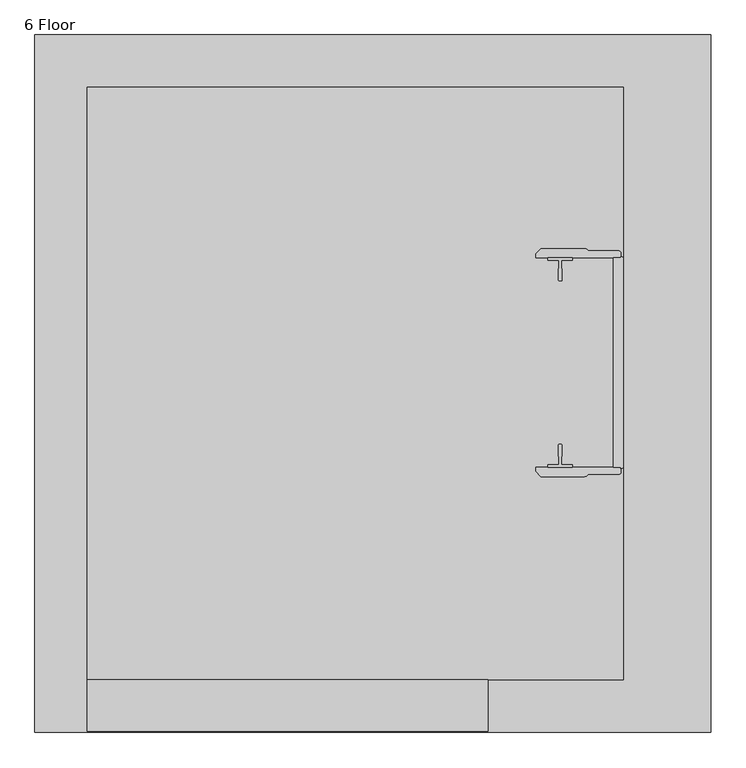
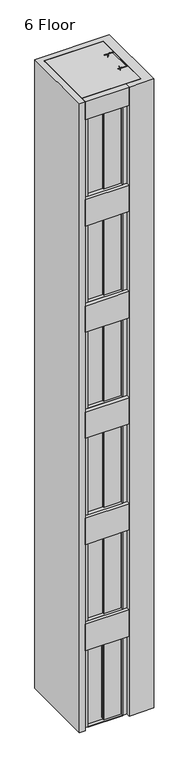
"""IFC4 building model written with IfcOpenShell, lengths in millimetres: proxy geometry, Gartec-5000-MRL-Traction-Cabin-Lift : 6 Floor."""

from ifc_helpers import new_model, si_unit, point, frame, frame_2d, origin, origin_with_axes, place, context, project, spatial, polyline, circle_curve, trimmed, segment, composite_curve, outline, extrude, source, transform, mapped, element, save


def proxy_6_floor_30cc6ed3(model_context):
    return source(origin(), model_context, "Body", "SweptSolid", [
        extrude(outline(polyline([(-770.0, -1848.2230509), (-770.0, -1700.0), (380.0, -1700.0), (380.0, -1848.2230509), (-770.0, -1848.2230509)])), frame((0.0, 0.0, 16800.0), z_axis=(0.0, 0.0, 1.0), x_axis=(1.0, 0.0, 0.0)), (0.0, 0.0, 1.0), 500.0),
        extrude(outline(polyline([(-638.0000218, -1751.99999), (-638.0000218, -1658.9999912), (-655.0000218, -1658.9999912), (-655.0000218, -1619.4999877), (751.999977, -1619.4999877), (751.999977, -1694.4999913), (261.9999901, -1694.4999913), (261.9999901, -1751.99999), (-638.0000218, -1751.99999)])), frame((0.0, 0.0, 14586.0716451), z_axis=(0.0, 0.0, 1.0), x_axis=(1.0, 0.0, 0.0)), (0.0, 0.0, 1.0), 13.9283549),
        extrude(outline(polyline([(-638.0000218, -1751.99999), (-757.9999968, -1751.99999), (-757.9999968, -1692.9999914), (-743.0571123, -1694.3073274), (-695.1284541, -1629.4619355), (-696.000023, -1619.4999877), (-655.0000218, -1619.4999877), (751.999977, -1619.4999877), (751.999977, -1694.4999913), (261.9999901, -1694.4999913), (279.9314813, -1696.0687947), (279.8007683, -1697.5630868), (263.4999708, -1696.1369541), (263.4999708, -1750.4999907), (380.4999546, -1750.4999907), (380.4999546, -1697.1369541), (364.1992167, -1698.5630868), (364.0685038, -1697.0687946), (381.9999651, -1695.4999914), (381.9999651, -1751.99999), (261.9999901, -1751.99999), (-638.0000218, -1751.99999)])), frame((0.0, 0.0, 16800.0), z_axis=(0.0, 0.0, 1.0), x_axis=(1.0, 0.0, 0.0)), (0.0, 0.0, 1.0), 120.0121898),
        extrude(outline(polyline([(-638.0000218, -1658.9999912), (-638.0000218, -1751.99999), (-757.9999968, -1751.99999), (-757.9999968, -1692.9999914), (-743.0571123, -1694.3073274), (-743.1878253, -1695.8016196), (-756.4999863, -1694.6369541), (-756.4999863, -1750.4999907), (-639.5000025, -1750.4999907), (-639.5000025, -1660.4999912), (-656.5000218, -1660.4999912), (-656.5000218, -1620.9999908), (-694.363041, -1620.9999908), (-693.6341656, -1629.3312077), (-695.1284541, -1629.4619355), (-696.000023, -1619.4999877), (-655.0000218, -1619.4999877), (-655.0000218, -1658.9999912), (-638.0000218, -1658.9999912)])), frame((0.0, 0.0, 14600.0), z_axis=(0.0, 0.0, 1.0), x_axis=(1.0, 0.0, 0.0)), (0.0, 0.0, 1.0), 2200.0),
        extrude(outline(polyline([(263.4999708, -1696.1369541), (263.4999708, -1750.4999907), (380.4999546, -1750.4999907), (380.4999546, -1697.1369541), (364.1992167, -1698.5630868), (364.0685038, -1697.0687946), (381.9999651, -1695.4999914), (381.9999651, -1751.99999), (261.9999901, -1751.99999), (261.9999901, -1694.4999913), (279.9314813, -1696.0687947), (279.8007683, -1697.5630868), (263.4999708, -1696.1369541)])), frame((0.0, 0.0, 14600.0), z_axis=(0.0, 0.0, 1.0), x_axis=(1.0, 0.0, 0.0)), (0.0, 0.0, 1.0), 2200.0),
        extrude(outline(polyline([(-653.0000218, -1655.9999912), (-653.0000218, -1627.4999891), (-645.0000151, -1627.4999891), (-645.0000151, -1628.4999911), (-652.0000049, -1628.4999911), (-652.0000049, -1654.9999929), (-183.0000155, -1654.9999929), (-183.0000155, -1655.9999912), (-653.0000218, -1655.9999912)])), frame((0.0, 0.0, 14600.0), z_axis=(0.0, 0.0, 1.0), x_axis=(1.0, 0.0, 0.0)), (0.0, 0.0, 1.0), 2200.0),
        extrude(outline(polyline([(-194.5000095, -1688.4999913), (283.4999961, -1688.4999913), (283.4999961, -1689.4999914), (-195.5000095, -1689.4999914), (-195.5000095, -1660.9999902), (-182.5000166, -1660.9999902), (-182.5000166, -1661.9999922), (-194.5000095, -1661.9999922), (-194.5000095, -1688.4999913)])), frame((0.0, 0.0, 14600.0), z_axis=(0.0, 0.0, 1.0), x_axis=(1.0, 0.0, 0.0)), (0.0, 0.0, 1.0), 2200.0),
        extrude(outline(polyline([(-770.0, -1848.2230509), (-770.0, -1700.0), (380.0, -1700.0), (380.0, -1848.2230509), (-770.0, -1848.2230509)])), frame((0.0, 0.0, 13880.0), z_axis=(0.0, 0.0, 1.0), x_axis=(1.0, 0.0, 0.0)), (0.0, 0.0, 1.0), 720.0),
        extrude(outline(polyline([(-638.0000218, -1751.99999), (-638.0000218, -1658.9999912), (-655.0000218, -1658.9999912), (-655.0000218, -1619.4999877), (751.999977, -1619.4999877), (751.999977, -1694.4999913), (261.9999901, -1694.4999913), (261.9999901, -1751.99999), (-638.0000218, -1751.99999)])), frame((0.0, 0.0, 11666.0716451), z_axis=(0.0, 0.0, 1.0), x_axis=(1.0, 0.0, 0.0)), (0.0, 0.0, 1.0), 13.9283549),
        extrude(outline(polyline([(-638.0000218, -1751.99999), (-757.9999968, -1751.99999), (-757.9999968, -1692.9999914), (-743.0571123, -1694.3073274), (-695.1284541, -1629.4619355), (-696.000023, -1619.4999877), (-655.0000218, -1619.4999877), (751.999977, -1619.4999877), (751.999977, -1694.4999913), (261.9999901, -1694.4999913), (279.9314813, -1696.0687947), (279.8007683, -1697.5630868), (263.4999708, -1696.1369541), (263.4999708, -1750.4999907), (380.4999546, -1750.4999907), (380.4999546, -1697.1369541), (364.1992167, -1698.5630868), (364.0685038, -1697.0687946), (381.9999651, -1695.4999914), (381.9999651, -1751.99999), (261.9999901, -1751.99999), (-638.0000218, -1751.99999)])), frame((0.0, 0.0, 13880.0), z_axis=(0.0, 0.0, 1.0), x_axis=(1.0, 0.0, 0.0)), (0.0, 0.0, 1.0), 120.0121898),
        extrude(outline(polyline([(-638.0000218, -1658.9999912), (-638.0000218, -1751.99999), (-757.9999968, -1751.99999), (-757.9999968, -1692.9999914), (-743.0571123, -1694.3073274), (-743.1878253, -1695.8016196), (-756.4999863, -1694.6369541), (-756.4999863, -1750.4999907), (-639.5000025, -1750.4999907), (-639.5000025, -1660.4999912), (-656.5000218, -1660.4999912), (-656.5000218, -1620.9999908), (-694.363041, -1620.9999908), (-693.6341656, -1629.3312077), (-695.1284541, -1629.4619355), (-696.000023, -1619.4999877), (-655.0000218, -1619.4999877), (-655.0000218, -1658.9999912), (-638.0000218, -1658.9999912)])), frame((0.0, 0.0, 11680.0), z_axis=(0.0, 0.0, 1.0), x_axis=(1.0, 0.0, 0.0)), (0.0, 0.0, 1.0), 2200.0),
        extrude(outline(polyline([(263.4999708, -1696.1369541), (263.4999708, -1750.4999907), (380.4999546, -1750.4999907), (380.4999546, -1697.1369541), (364.1992167, -1698.5630868), (364.0685038, -1697.0687946), (381.9999651, -1695.4999914), (381.9999651, -1751.99999), (261.9999901, -1751.99999), (261.9999901, -1694.4999913), (279.9314813, -1696.0687947), (279.8007683, -1697.5630868), (263.4999708, -1696.1369541)])), frame((0.0, 0.0, 11680.0), z_axis=(0.0, 0.0, 1.0), x_axis=(1.0, 0.0, 0.0)), (0.0, 0.0, 1.0), 2200.0),
        extrude(outline(polyline([(-653.0000218, -1655.9999912), (-653.0000218, -1627.4999891), (-645.0000151, -1627.4999891), (-645.0000151, -1628.4999911), (-652.0000049, -1628.4999911), (-652.0000049, -1654.9999929), (-183.0000155, -1654.9999929), (-183.0000155, -1655.9999912), (-653.0000218, -1655.9999912)])), frame((0.0, 0.0, 11680.0), z_axis=(0.0, 0.0, 1.0), x_axis=(1.0, 0.0, 0.0)), (0.0, 0.0, 1.0), 2200.0),
        extrude(outline(polyline([(-194.5000095, -1688.4999913), (283.4999961, -1688.4999913), (283.4999961, -1689.4999914), (-195.5000095, -1689.4999914), (-195.5000095, -1660.9999902), (-182.5000166, -1660.9999902), (-182.5000166, -1661.9999922), (-194.5000095, -1661.9999922), (-194.5000095, -1688.4999913)])), frame((0.0, 0.0, 11680.0), z_axis=(0.0, 0.0, 1.0), x_axis=(1.0, 0.0, 0.0)), (0.0, 0.0, 1.0), 2200.0),
        extrude(outline(polyline([(-770.0, -1848.2230509), (-770.0, -1700.0), (380.0, -1700.0), (380.0, -1848.2230509), (-770.0, -1848.2230509)])), frame((0.0, 0.0, 10960.0), z_axis=(0.0, 0.0, 1.0), x_axis=(1.0, 0.0, 0.0)), (0.0, 0.0, 1.0), 720.0),
        extrude(outline(polyline([(-638.0000218, -1751.99999), (-638.0000218, -1658.9999912), (-655.0000218, -1658.9999912), (-655.0000218, -1619.4999877), (751.999977, -1619.4999877), (751.999977, -1694.4999913), (261.9999901, -1694.4999913), (261.9999901, -1751.99999), (-638.0000218, -1751.99999)])), frame((0.0, 0.0, 8746.0716451), z_axis=(0.0, 0.0, 1.0), x_axis=(1.0, 0.0, 0.0)), (0.0, 0.0, 1.0), 13.9283549),
        extrude(outline(polyline([(-638.0000218, -1751.99999), (-757.9999968, -1751.99999), (-757.9999968, -1692.9999914), (-743.0571123, -1694.3073274), (-695.1284541, -1629.4619355), (-696.000023, -1619.4999877), (-655.0000218, -1619.4999877), (751.999977, -1619.4999877), (751.999977, -1694.4999913), (261.9999901, -1694.4999913), (279.9314813, -1696.0687947), (279.8007683, -1697.5630868), (263.4999708, -1696.1369541), (263.4999708, -1750.4999907), (380.4999546, -1750.4999907), (380.4999546, -1697.1369541), (364.1992167, -1698.5630868), (364.0685038, -1697.0687946), (381.9999651, -1695.4999914), (381.9999651, -1751.99999), (261.9999901, -1751.99999), (-638.0000218, -1751.99999)])), frame((0.0, 0.0, 10960.0), z_axis=(0.0, 0.0, 1.0), x_axis=(1.0, 0.0, 0.0)), (0.0, 0.0, 1.0), 120.0121898),
        extrude(outline(polyline([(-638.0000218, -1658.9999912), (-638.0000218, -1751.99999), (-757.9999968, -1751.99999), (-757.9999968, -1692.9999914), (-743.0571123, -1694.3073274), (-743.1878253, -1695.8016196), (-756.4999863, -1694.6369541), (-756.4999863, -1750.4999907), (-639.5000025, -1750.4999907), (-639.5000025, -1660.4999912), (-656.5000218, -1660.4999912), (-656.5000218, -1620.9999908), (-694.363041, -1620.9999908), (-693.6341656, -1629.3312077), (-695.1284541, -1629.4619355), (-696.000023, -1619.4999877), (-655.0000218, -1619.4999877), (-655.0000218, -1658.9999912), (-638.0000218, -1658.9999912)])), frame((0.0, 0.0, 8760.0), z_axis=(0.0, 0.0, 1.0), x_axis=(1.0, 0.0, 0.0)), (0.0, 0.0, 1.0), 2200.0),
        extrude(outline(polyline([(263.4999708, -1696.1369541), (263.4999708, -1750.4999907), (380.4999546, -1750.4999907), (380.4999546, -1697.1369541), (364.1992167, -1698.5630868), (364.0685038, -1697.0687946), (381.9999651, -1695.4999914), (381.9999651, -1751.99999), (261.9999901, -1751.99999), (261.9999901, -1694.4999913), (279.9314813, -1696.0687947), (279.8007683, -1697.5630868), (263.4999708, -1696.1369541)])), frame((0.0, 0.0, 8760.0), z_axis=(0.0, 0.0, 1.0), x_axis=(1.0, 0.0, 0.0)), (0.0, 0.0, 1.0), 2200.0),
        extrude(outline(polyline([(-653.0000218, -1655.9999912), (-653.0000218, -1627.4999891), (-645.0000151, -1627.4999891), (-645.0000151, -1628.4999911), (-652.0000049, -1628.4999911), (-652.0000049, -1654.9999929), (-183.0000155, -1654.9999929), (-183.0000155, -1655.9999912), (-653.0000218, -1655.9999912)])), frame((0.0, 0.0, 8760.0), z_axis=(0.0, 0.0, 1.0), x_axis=(1.0, 0.0, 0.0)), (0.0, 0.0, 1.0), 2200.0),
        extrude(outline(polyline([(-194.5000095, -1688.4999913), (283.4999961, -1688.4999913), (283.4999961, -1689.4999914), (-195.5000095, -1689.4999914), (-195.5000095, -1660.9999902), (-182.5000166, -1660.9999902), (-182.5000166, -1661.9999922), (-194.5000095, -1661.9999922), (-194.5000095, -1688.4999913)])), frame((0.0, 0.0, 8760.0), z_axis=(0.0, 0.0, 1.0), x_axis=(1.0, 0.0, 0.0)), (0.0, 0.0, 1.0), 2200.0),
        extrude(outline(polyline([(-770.0, -1848.2230509), (-770.0, -1700.0), (380.0, -1700.0), (380.0, -1848.2230509), (-770.0, -1848.2230509)])), frame((0.0, 0.0, 8040.0), z_axis=(0.0, 0.0, 1.0), x_axis=(1.0, 0.0, 0.0)), (0.0, 0.0, 1.0), 720.0),
        extrude(outline(polyline([(-638.0000218, -1751.99999), (-638.0000218, -1658.9999912), (-655.0000218, -1658.9999912), (-655.0000218, -1619.4999877), (751.999977, -1619.4999877), (751.999977, -1694.4999913), (261.9999901, -1694.4999913), (261.9999901, -1751.99999), (-638.0000218, -1751.99999)])), frame((0.0, 0.0, 5826.0716451), z_axis=(0.0, 0.0, 1.0), x_axis=(1.0, 0.0, 0.0)), (0.0, 0.0, 1.0), 13.9283549),
        extrude(outline(polyline([(-638.0000218, -1751.99999), (-757.9999968, -1751.99999), (-757.9999968, -1692.9999914), (-743.0571123, -1694.3073274), (-695.1284541, -1629.4619355), (-696.000023, -1619.4999877), (-655.0000218, -1619.4999877), (751.999977, -1619.4999877), (751.999977, -1694.4999913), (261.9999901, -1694.4999913), (279.9314813, -1696.0687947), (279.8007683, -1697.5630868), (263.4999708, -1696.1369541), (263.4999708, -1750.4999907), (380.4999546, -1750.4999907), (380.4999546, -1697.1369541), (364.1992167, -1698.5630868), (364.0685038, -1697.0687946), (381.9999651, -1695.4999914), (381.9999651, -1751.99999), (261.9999901, -1751.99999), (-638.0000218, -1751.99999)])), frame((0.0, 0.0, 8040.0), z_axis=(0.0, 0.0, 1.0), x_axis=(1.0, 0.0, 0.0)), (0.0, 0.0, 1.0), 120.0121898),
        extrude(outline(polyline([(-638.0000218, -1658.9999912), (-638.0000218, -1751.99999), (-757.9999968, -1751.99999), (-757.9999968, -1692.9999914), (-743.0571123, -1694.3073274), (-743.1878253, -1695.8016196), (-756.4999863, -1694.6369541), (-756.4999863, -1750.4999907), (-639.5000025, -1750.4999907), (-639.5000025, -1660.4999912), (-656.5000218, -1660.4999912), (-656.5000218, -1620.9999908), (-694.363041, -1620.9999908), (-693.6341656, -1629.3312077), (-695.1284541, -1629.4619355), (-696.000023, -1619.4999877), (-655.0000218, -1619.4999877), (-655.0000218, -1658.9999912), (-638.0000218, -1658.9999912)])), frame((0.0, 0.0, 5840.0), z_axis=(0.0, 0.0, 1.0), x_axis=(1.0, 0.0, 0.0)), (0.0, 0.0, 1.0), 2200.0),
        extrude(outline(polyline([(263.4999708, -1696.1369541), (263.4999708, -1750.4999907), (380.4999546, -1750.4999907), (380.4999546, -1697.1369541), (364.1992167, -1698.5630868), (364.0685038, -1697.0687946), (381.9999651, -1695.4999914), (381.9999651, -1751.99999), (261.9999901, -1751.99999), (261.9999901, -1694.4999913), (279.9314813, -1696.0687947), (279.8007683, -1697.5630868), (263.4999708, -1696.1369541)])), frame((0.0, 0.0, 5840.0), z_axis=(0.0, 0.0, 1.0), x_axis=(1.0, 0.0, 0.0)), (0.0, 0.0, 1.0), 2200.0),
        extrude(outline(polyline([(-653.0000218, -1655.9999912), (-653.0000218, -1627.4999891), (-645.0000151, -1627.4999891), (-645.0000151, -1628.4999911), (-652.0000049, -1628.4999911), (-652.0000049, -1654.9999929), (-183.0000155, -1654.9999929), (-183.0000155, -1655.9999912), (-653.0000218, -1655.9999912)])), frame((0.0, 0.0, 5840.0), z_axis=(0.0, 0.0, 1.0), x_axis=(1.0, 0.0, 0.0)), (0.0, 0.0, 1.0), 2200.0),
        extrude(outline(polyline([(-194.5000095, -1688.4999913), (283.4999961, -1688.4999913), (283.4999961, -1689.4999914), (-195.5000095, -1689.4999914), (-195.5000095, -1660.9999902), (-182.5000166, -1660.9999902), (-182.5000166, -1661.9999922), (-194.5000095, -1661.9999922), (-194.5000095, -1688.4999913)])), frame((0.0, 0.0, 5840.0), z_axis=(0.0, 0.0, 1.0), x_axis=(1.0, 0.0, 0.0)), (0.0, 0.0, 1.0), 2200.0),
        extrude(outline(polyline([(-770.0, -1848.2230509), (-770.0, -1700.0), (380.0, -1700.0), (380.0, -1848.2230509), (-770.0, -1848.2230509)])), frame((0.0, 0.0, 5120.0), z_axis=(0.0, 0.0, 1.0), x_axis=(1.0, 0.0, 0.0)), (0.0, 0.0, 1.0), 720.0),
        extrude(outline(polyline([(-638.0000218, -1751.99999), (-638.0000218, -1658.9999912), (-655.0000218, -1658.9999912), (-655.0000218, -1619.4999877), (751.999977, -1619.4999877), (751.999977, -1694.4999913), (261.9999901, -1694.4999913), (261.9999901, -1751.99999), (-638.0000218, -1751.99999)])), frame((0.0, 0.0, 2906.0716451), z_axis=(0.0, 0.0, 1.0), x_axis=(1.0, 0.0, 0.0)), (0.0, 0.0, 1.0), 13.9283549),
        extrude(outline(polyline([(-638.0000218, -1751.99999), (-757.9999968, -1751.99999), (-757.9999968, -1692.9999914), (-743.0571123, -1694.3073274), (-695.1284541, -1629.4619355), (-696.000023, -1619.4999877), (-655.0000218, -1619.4999877), (751.999977, -1619.4999877), (751.999977, -1694.4999913), (261.9999901, -1694.4999913), (279.9314813, -1696.0687947), (279.8007683, -1697.5630868), (263.4999708, -1696.1369541), (263.4999708, -1750.4999907), (380.4999546, -1750.4999907), (380.4999546, -1697.1369541), (364.1992167, -1698.5630868), (364.0685038, -1697.0687946), (381.9999651, -1695.4999914), (381.9999651, -1751.99999), (261.9999901, -1751.99999), (-638.0000218, -1751.99999)])), frame((0.0, 0.0, 5120.0), z_axis=(0.0, 0.0, 1.0), x_axis=(1.0, 0.0, 0.0)), (0.0, 0.0, 1.0), 120.0121898),
        extrude(outline(polyline([(-638.0000218, -1658.9999912), (-638.0000218, -1751.99999), (-757.9999968, -1751.99999), (-757.9999968, -1692.9999914), (-743.0571123, -1694.3073274), (-743.1878253, -1695.8016196), (-756.4999863, -1694.6369541), (-756.4999863, -1750.4999907), (-639.5000025, -1750.4999907), (-639.5000025, -1660.4999912), (-656.5000218, -1660.4999912), (-656.5000218, -1620.9999908), (-694.363041, -1620.9999908), (-693.6341656, -1629.3312077), (-695.1284541, -1629.4619355), (-696.000023, -1619.4999877), (-655.0000218, -1619.4999877), (-655.0000218, -1658.9999912), (-638.0000218, -1658.9999912)])), frame((0.0, 0.0, 2920.0), z_axis=(0.0, 0.0, 1.0), x_axis=(1.0, 0.0, 0.0)), (0.0, 0.0, 1.0), 2200.0),
        extrude(outline(polyline([(263.4999708, -1696.1369541), (263.4999708, -1750.4999907), (380.4999546, -1750.4999907), (380.4999546, -1697.1369541), (364.1992167, -1698.5630868), (364.0685038, -1697.0687946), (381.9999651, -1695.4999914), (381.9999651, -1751.99999), (261.9999901, -1751.99999), (261.9999901, -1694.4999913), (279.9314813, -1696.0687947), (279.8007683, -1697.5630868), (263.4999708, -1696.1369541)])), frame((0.0, 0.0, 2920.0), z_axis=(0.0, 0.0, 1.0), x_axis=(1.0, 0.0, 0.0)), (0.0, 0.0, 1.0), 2200.0),
        extrude(outline(polyline([(-653.0000218, -1655.9999912), (-653.0000218, -1627.4999891), (-645.0000151, -1627.4999891), (-645.0000151, -1628.4999911), (-652.0000049, -1628.4999911), (-652.0000049, -1654.9999929), (-183.0000155, -1654.9999929), (-183.0000155, -1655.9999912), (-653.0000218, -1655.9999912)])), frame((0.0, 0.0, 2920.0), z_axis=(0.0, 0.0, 1.0), x_axis=(1.0, 0.0, 0.0)), (0.0, 0.0, 1.0), 2200.0),
        extrude(outline(polyline([(-194.5000095, -1688.4999913), (283.4999961, -1688.4999913), (283.4999961, -1689.4999914), (-195.5000095, -1689.4999914), (-195.5000095, -1660.9999902), (-182.5000166, -1660.9999902), (-182.5000166, -1661.9999922), (-194.5000095, -1661.9999922), (-194.5000095, -1688.4999913)])), frame((0.0, 0.0, 2920.0), z_axis=(0.0, 0.0, 1.0), x_axis=(1.0, 0.0, 0.0)), (0.0, 0.0, 1.0), 2200.0),
        extrude(outline(polyline([(-770.0, -1848.2230509), (-770.0, -1700.0), (380.0, -1700.0), (380.0, -1848.2230509), (-770.0, -1848.2230509)])), frame((0.0, 0.0, 2200.0), z_axis=(0.0, 0.0, 1.0), x_axis=(1.0, 0.0, 0.0)), (0.0, 0.0, 1.0), 720.0),
        extrude(outline(polyline([(-638.0000218, -1751.99999), (-638.0000218, -1658.9999912), (-655.0000218, -1658.9999912), (-655.0000218, -1619.4999877), (751.999977, -1619.4999877), (751.999977, -1694.4999913), (261.9999901, -1694.4999913), (261.9999901, -1751.99999), (-638.0000218, -1751.99999)])), frame((0.0, 0.0, -13.9283549), z_axis=(0.0, 0.0, 1.0), x_axis=(1.0, 0.0, 0.0)), (0.0, 0.0, 1.0), 13.9283549),
        extrude(outline(polyline([(-638.0000218, -1751.99999), (-757.9999968, -1751.99999), (-757.9999968, -1692.9999914), (-743.0571123, -1694.3073274), (-695.1284541, -1629.4619355), (-696.000023, -1619.4999877), (-655.0000218, -1619.4999877), (751.999977, -1619.4999877), (751.999977, -1694.4999913), (261.9999901, -1694.4999913), (279.9314813, -1696.0687947), (279.8007683, -1697.5630868), (263.4999708, -1696.1369541), (263.4999708, -1750.4999907), (380.4999546, -1750.4999907), (380.4999546, -1697.1369541), (364.1992167, -1698.5630868), (364.0685038, -1697.0687946), (381.9999651, -1695.4999914), (381.9999651, -1751.99999), (261.9999901, -1751.99999), (-638.0000218, -1751.99999)])), frame((0.0, 0.0, 2200.0), z_axis=(0.0, 0.0, 1.0), x_axis=(1.0, 0.0, 0.0)), (0.0, 0.0, 1.0), 120.0121898),
        extrude(outline(polyline([(-638.0000218, -1658.9999912), (-638.0000218, -1751.99999), (-757.9999968, -1751.99999), (-757.9999968, -1692.9999914), (-743.0571123, -1694.3073274), (-743.1878253, -1695.8016196), (-756.4999863, -1694.6369541), (-756.4999863, -1750.4999907), (-639.5000025, -1750.4999907), (-639.5000025, -1660.4999912), (-656.5000218, -1660.4999912), (-656.5000218, -1620.9999908), (-694.363041, -1620.9999908), (-693.6341656, -1629.3312077), (-695.1284541, -1629.4619355), (-696.000023, -1619.4999877), (-655.0000218, -1619.4999877), (-655.0000218, -1658.9999912), (-638.0000218, -1658.9999912)])), origin_with_axes(), (0.0, 0.0, 1.0), 2200.0),
        extrude(outline(polyline([(263.4999708, -1696.1369541), (263.4999708, -1750.4999907), (380.4999546, -1750.4999907), (380.4999546, -1697.1369541), (364.1992167, -1698.5630868), (364.0685038, -1697.0687946), (381.9999651, -1695.4999914), (381.9999651, -1751.99999), (261.9999901, -1751.99999), (261.9999901, -1694.4999913), (279.9314813, -1696.0687947), (279.8007683, -1697.5630868), (263.4999708, -1696.1369541)])), origin_with_axes(), (0.0, 0.0, 1.0), 2200.0),
        extrude(outline(polyline([(-653.0000218, -1655.9999912), (-653.0000218, -1627.4999891), (-645.0000151, -1627.4999891), (-645.0000151, -1628.4999911), (-652.0000049, -1628.4999911), (-652.0000049, -1654.9999929), (-183.0000155, -1654.9999929), (-183.0000155, -1655.9999912), (-653.0000218, -1655.9999912)])), origin_with_axes(), (0.0, 0.0, 1.0), 2200.0),
        extrude(outline(polyline([(-194.5000095, -1688.4999913), (283.4999961, -1688.4999913), (283.4999961, -1689.4999914), (-195.5000095, -1689.4999914), (-195.5000095, -1660.9999902), (-182.5000166, -1660.9999902), (-182.5000166, -1661.9999922), (-194.5000095, -1661.9999922), (-194.5000095, -1688.4999913)])), origin_with_axes(), (0.0, 0.0, 1.0), 2200.0),
        extrude(outline(polyline([(419.0, -1520.0), (-673.9999807, -1520.0), (-710.0, -1484.0000522), (-710.0, -131.0), (-706.999979, -131.0), (-706.999979, -92.9999924), (-677.0000076, -62.9999614), (-639.0, -62.9999614), (-639.0, -60.0), (419.0, -60.0), (419.0, -62.9999614), (459.9999959, -62.9999614), (489.9999952, -92.9999924), (489.9999952, -131.0), (489.9999952, -1449.0), (489.9999952, -1487.0000076), (459.9999959, -1517.0000386), (419.0, -1517.0000386), (419.0, -1520.0)])), frame((0.0, 0.0, 2180.0), z_axis=(0.0, 0.0, 1.0), x_axis=(1.0, 0.0, 0.0)), (0.0, 0.0, 1.0), 20.0),
        extrude(outline(polyline([(419.0, -1520.0), (-673.9999807, -1520.0), (-710.0, -1484.0000522), (-710.0, -131.0), (-706.999979, -131.0), (-706.999979, -92.9999924), (-677.0000076, -62.9999614), (-639.0, -62.9999614), (-639.0, -60.0), (419.0, -60.0), (419.0, -62.9999614), (459.9999959, -62.9999614), (489.9999952, -92.9999924), (489.9999952, -131.0), (489.9999952, -1449.0), (489.9999952, -1487.0000076), (459.9999959, -1517.0000386), (419.0, -1517.0000386), (419.0, -1520.0)])), origin_with_axes(), (0.0, 0.0, 1.0), 20.0),
        extrude(outline(composite_curve([segment(polyline([(-186.0000101, -1581.9999854), (-202.0000095, -1581.9999854), (-202.0000095, -1580.9999809), (-186.0000144, -1580.9999809)]), True, "CONTINUOUS"), segment(trimmed(circle_curve(frame_2d((-186.0000144, -1579.9999865)), 0.9999944), [point((-186.0000144, -1580.9999809))], [point((-185.0000199, -1579.9999853))], True, "CARTESIAN"), True, "CONTINUOUS"), segment(polyline([(-185.0000199, -1579.9999853), (-185.0000199, -1558.0000037)]), True, "CONTINUOUS"), segment(trimmed(circle_curve(frame_2d((-186.0000002, -1558.0000037)), 0.9999803), [point((-185.0000199, -1558.0000037))], [point((-186.0000002, -1557.0000234))], True, "CARTESIAN"), True, "CONTINUOUS"), segment(polyline([(-186.0000002, -1557.0000234), (-651.9999236, -1557.0000234)]), True, "CONTINUOUS"), segment(trimmed(circle_curve(frame_2d((-651.9999236, -1557.9999308)), 0.9999074), [point((-651.9999236, -1557.0000234))], [point((-652.999826, -1558.0031221))], True, "CARTESIAN"), True, "CONTINUOUS"), segment(polyline([(-652.999826, -1558.0031221), (-652.999826, -1580.0011785)]), True, "CONTINUOUS"), segment(trimmed(circle_curve(frame_2d((-652.0002441, -1580.0011785)), 0.9995818), [point((-652.999826, -1580.0011785))], [point((-652.000127, -1581.0007603))], True, "CARTESIAN"), True, "CONTINUOUS"), segment(polyline([(-652.000127, -1581.0007603), (-642.0000111, -1581.0007603), (-642.0000111, -1581.9999868), (-652.0000116, -1581.9999868)]), True, "CONTINUOUS"), segment(trimmed(circle_curve(frame_2d((-652.0000116, -1579.9999839)), 2.000003), [point((-652.0000116, -1581.9999868))], [point((-654.0000145, -1579.9999822))], False, "CARTESIAN"), True, "CONTINUOUS"), segment(polyline([(-654.0000145, -1579.9999822), (-654.0000145, -1557.9999851)]), True, "CONTINUOUS"), segment(trimmed(circle_curve(frame_2d((-652.0000125, -1557.9999851)), 2.000002), [point((-654.0000145, -1557.9999851))], [point((-652.0000112, -1555.9999831))], False, "CARTESIAN"), True, "CONTINUOUS"), segment(polyline([(-652.0000112, -1555.9999831), (-186.00001, -1555.9999831)]), True, "CONTINUOUS"), segment(trimmed(circle_curve(frame_2d((-186.00001, -1557.9999837)), 2.0000006), [point((-186.00001, -1555.9999831))], [point((-184.0000094, -1557.9999839))], False, "CARTESIAN"), True, "CONTINUOUS"), segment(polyline([(-184.0000094, -1557.9999839), (-184.0000094, -1579.9999847)]), True, "CONTINUOUS"), segment(trimmed(circle_curve(frame_2d((-186.0000101, -1579.9999847)), 2.0000007), [point((-184.0000094, -1579.9999847))], [point((-186.0000101, -1581.9999854))], False, "CARTESIAN"), True, "CONTINUOUS")], self_intersect=False)), origin_with_axes(), (0.0, 0.0, 1.0), 2200.0),
        extrude(outline(composite_curve([segment(polyline([(271.4998807, -1550.998717), (258.0000009, -1550.998717), (258.0000009, -1549.9998379), (271.5004638, -1549.9998379)]), True, "CONTINUOUS"), segment(trimmed(circle_curve(frame_2d((271.5004638, -1549.0000811)), 0.9997568), [point((271.5004638, -1549.9998379))], [point((272.5002206, -1549.0000334))], True, "CARTESIAN"), True, "CONTINUOUS"), segment(polyline([(272.5002206, -1549.0000334), (272.5002206, -1527.0000056)]), True, "CONTINUOUS"), segment(trimmed(circle_curve(frame_2d((271.5000994, -1527.0000056)), 1.0001212), [point((272.5002206, -1527.0000056))], [point((271.5000448, -1525.9998845))], True, "CARTESIAN"), True, "CONTINUOUS"), segment(polyline([(271.5000448, -1525.9998845), (-194.5001026, -1525.9998845)]), True, "CONTINUOUS"), segment(trimmed(circle_curve(frame_2d((-194.5001026, -1527.0000128)), 1.0001283), [point((-194.5001026, -1525.9998845))], [point((-195.5002309, -1527.0000128))], True, "CARTESIAN"), True, "CONTINUOUS"), segment(polyline([(-195.5002309, -1527.0000128), (-195.5002309, -1549.0000654)]), True, "CONTINUOUS"), segment(trimmed(circle_curve(frame_2d((-194.5004755, -1549.0000654)), 0.9997554), [point((-195.5002309, -1549.0000654))], [point((-194.5004755, -1549.9998208))], True, "CARTESIAN"), True, "CONTINUOUS"), segment(polyline([(-194.5004755, -1549.9998208), (-186.50001, -1549.9998208), (-186.50001, -1550.9999428), (-194.4999539, -1550.9999428)]), True, "CONTINUOUS"), segment(trimmed(circle_curve(frame_2d((-194.4999539, -1549.0000125)), 1.9999303), [point((-194.4999539, -1550.9999428))], [point((-196.4998838, -1549.0011565))], False, "CARTESIAN"), True, "CONTINUOUS"), segment(polyline([(-196.4998838, -1549.0011565), (-196.4998838, -1527.0008048)]), True, "CONTINUOUS"), segment(trimmed(circle_curve(frame_2d((-194.5001288, -1527.0008048)), 1.999755), [point((-196.4998838, -1527.0008048))], [point((-194.5001288, -1525.0010498))], False, "CARTESIAN"), True, "CONTINUOUS"), segment(polyline([(-194.5001288, -1525.0010498), (271.4997348, -1525.0010498)]), True, "CONTINUOUS"), segment(trimmed(circle_curve(frame_2d((271.4997348, -1527.0020985)), 2.0010487), [point((271.4997348, -1525.0010498))], [point((273.5007835, -1527.0020985))], False, "CARTESIAN"), True, "CONTINUOUS"), segment(polyline([(273.5007835, -1527.0020985), (273.5007835, -1548.9977296)]), True, "CONTINUOUS"), segment(trimmed(circle_curve(frame_2d((271.4997961, -1548.9977296)), 2.0009874), [point((273.5007835, -1548.9977296))], [point((271.4998807, -1550.998717))], False, "CARTESIAN"), True, "CONTINUOUS")], self_intersect=False)), origin_with_axes(), (0.0, 0.0, 1.0), 2200.0),
        extrude(outline(polyline([(419.0, -1520.0), (261.0, -1520.0), (261.0, -1490.0), (419.0, -1490.0), (460.0, -1449.0), (460.0, -131.0), (419.0, -90.0), (-639.4999768, -90.0), (-639.4999768, -99.8284304), (-670.1715526, -130.5000062), (-680.0, -130.5000062), (-680.0, -1449.0), (-639.0000158, -1489.9999842), (-639.0000158, -1517.0000228), (-676.9999639, -1517.0000228), (-707.0000375, -1487.0000088), (-707.0000375, -1449.0000011), (-710.0, -1449.0000011), (-710.0, -131.0), (-706.999979, -131.0), (-706.999979, -92.9999924), (-677.0000076, -62.9999614), (-639.0, -62.9999614), (-639.0, -60.0), (419.0, -60.0), (419.0, -62.9999614), (459.9999959, -62.9999614), (489.9999952, -92.9999924), (489.9999952, -131.0), (489.9999952, -1449.0), (489.9999952, -1487.0000076), (459.9999959, -1517.0000386), (419.0, -1517.0000386), (419.0, -1520.0)])), origin_with_axes(), (0.0, 0.0, 1.0), 2200.0),
        extrude(outline(composite_curve([segment(polyline([(591.5001962, -555.0005614), (584.5001628, -555.0005614)]), True, "CONTINUOUS"), segment(trimmed(circle_curve(frame_2d((584.5001628, -554.0003594)), 1.000202), [point((584.5001628, -555.0005614))], [point((583.4999608, -554.0002069))], False, "CARTESIAN"), True, "CONTINUOUS"), segment(polyline([(583.4999608, -554.0002069), (583.4999608, -521.0001373)]), True, "CONTINUOUS"), segment(trimmed(circle_curve(frame_2d((583.500052, -519.5000963)), 1.500041), [point((583.4999608, -521.0001373))], [point((585.000093, -519.5000789))], True, "CARTESIAN"), True, "CONTINUOUS"), segment(polyline([(585.000093, -519.5000789), (585.000093, -498.000037)]), True, "CONTINUOUS"), segment(trimmed(circle_curve(frame_2d((584.000012, -498.000037)), 1.000081), [point((585.000093, -498.000037))], [point((584.0000275, -496.999956))], True, "CARTESIAN"), True, "CONTINUOUS"), segment(polyline([(584.0000275, -496.999956), (553.9989755, -496.999956)]), True, "CONTINUOUS"), segment(trimmed(circle_curve(frame_2d((553.9989755, -496.000341)), 0.999615), [point((553.9989755, -496.999956))], [point((552.9993606, -496.0002399))], False, "CARTESIAN"), True, "CONTINUOUS"), segment(polyline([(552.9993606, -496.0002399), (552.9993606, -490.0001501), (623.0000559, -490.0001501), (623.0000559, -496.0001175)]), True, "CONTINUOUS"), segment(trimmed(circle_curve(frame_2d((622.0000592, -496.0001175)), 0.9999967), [point((623.0000559, -496.0001175))], [point((622.0029871, -497.0001099))], False, "CARTESIAN"), True, "CONTINUOUS"), segment(polyline([(622.0029871, -497.0001099), (592.0000483, -497.0001099)]), True, "CONTINUOUS"), segment(trimmed(circle_curve(frame_2d((592.0000483, -498.0001312)), 1.0000212), [point((592.0000483, -497.0001099))], [point((591.000027, -498.0001089))], True, "CARTESIAN"), True, "CONTINUOUS"), segment(polyline([(591.000027, -498.0001089), (591.000027, -519.5001256)]), True, "CONTINUOUS"), segment(trimmed(circle_curve(frame_2d((592.4999887, -519.5001256)), 1.4999616), [point((591.000027, -519.5001256))], [point((592.4998442, -521.0000872))], True, "CARTESIAN"), True, "CONTINUOUS"), segment(polyline([(592.4998442, -521.0000872), (592.4998442, -554.001024)]), True, "CONTINUOUS"), segment(trimmed(circle_curve(frame_2d((591.5003068, -554.001024)), 0.9995374), [point((592.4998442, -554.001024))], [point((591.5001962, -555.0005614))], False, "CARTESIAN"), True, "CONTINUOUS")], self_intersect=False)), origin_with_axes(), (0.0, 0.0, 1.0), 17300.0),
        extrude(outline(composite_curve([segment(trimmed(circle_curve(frame_2d((592.000082, -1081.9998893)), 0.9999845), [point((591.0000974, -1081.9999013))], [point((592.000082, -1082.9998738))], True, "CARTESIAN"), True, "CONTINUOUS"), segment(polyline([(592.000082, -1082.9998738), (622.0029853, -1082.9998738)]), True, "CONTINUOUS"), segment(trimmed(circle_curve(frame_2d((622.0000556, -1083.9998753)), 1.0000057), [point((622.0029853, -1082.9998738))], [point((623.0000614, -1083.9998753))], False, "CARTESIAN"), True, "CONTINUOUS"), segment(polyline([(623.0000614, -1083.9998753), (623.0000614, -1089.9998499), (552.9993631, -1089.9998499), (552.9993631, -1083.9997622)]), True, "CONTINUOUS"), segment(trimmed(circle_curve(frame_2d((553.9989742, -1083.9996633)), 0.9996111), [point((552.9993631, -1083.9997622))], [point((553.9989742, -1083.0000522))], False, "CARTESIAN"), True, "CONTINUOUS"), segment(polyline([(553.9989742, -1083.0000522), (584.0000376, -1083.0000522)]), True, "CONTINUOUS"), segment(trimmed(circle_curve(frame_2d((584.0000321, -1081.9999557)), 1.0000965), [point((584.0000376, -1083.0000522))], [point((585.0001286, -1081.9999557))], True, "CARTESIAN"), True, "CONTINUOUS"), segment(polyline([(585.0001286, -1081.9999557), (585.0001286, -1060.4999129)]), True, "CONTINUOUS"), segment(trimmed(circle_curve(frame_2d((583.5001287, -1060.4998872)), 1.4999999), [point((585.0001286, -1060.4999129))], [point((583.5001798, -1058.9998873))], True, "CARTESIAN"), True, "CONTINUOUS"), segment(polyline([(583.5001798, -1058.9998873), (583.5001798, -1026.0000468)]), True, "CONTINUOUS"), segment(trimmed(circle_curve(frame_2d((584.4999821, -1026.0001479)), 0.9998023), [point((583.5001798, -1026.0000468))], [point((584.4999821, -1025.0003456))], False, "CARTESIAN"), True, "CONTINUOUS"), segment(polyline([(584.4999821, -1025.0003456), (591.4999513, -1025.0003456)]), True, "CONTINUOUS"), segment(trimmed(circle_curve(frame_2d((591.4998171, -1026.0008164)), 1.0004709), [point((591.4999513, -1025.0003456))], [point((592.5002879, -1026.0008164))], False, "CARTESIAN"), True, "CONTINUOUS"), segment(polyline([(592.5002879, -1026.0008164), (592.5002879, -1058.9998577)]), True, "CONTINUOUS"), segment(trimmed(circle_curve(frame_2d((592.5001417, -1060.499902)), 1.5000443), [point((592.5002879, -1058.9998577))], [point((591.0000974, -1060.499902))], True, "CARTESIAN"), True, "CONTINUOUS"), segment(polyline([(591.0000974, -1060.499902), (591.0000974, -1081.9999013)]), True, "CONTINUOUS")], self_intersect=False)), origin_with_axes(), (0.0, 0.0, 1.0), 17300.0),
        extrude(outline(composite_curve([segment(trimmed(circle_curve(frame_2d((762.0000035, -1085.9999029)), 7.9999972), [point((770.0000007, -1085.9999029))], [point((761.9286745, -1093.9995821))], False, "CARTESIAN"), True, "CONTINUOUS"), segment(polyline([(761.9286745, -1093.9995821), (761.9286745, -1089.9998918), (740.4284249, -1089.9998918), (740.4284249, -490.0001501), (761.928675, -490.0001501), (761.928675, -486.0001227)]), True, "CONTINUOUS"), segment(trimmed(circle_curve(frame_2d((761.9994648, -494.0003455)), 8.000536), [point((761.928675, -486.0001227))], [point((770.0000009, -494.0003455))], False, "CARTESIAN"), True, "CONTINUOUS"), segment(polyline([(770.0000009, -494.0003455), (770.0000007, -1085.9999029)]), True, "CONTINUOUS")], self_intersect=False)), origin_with_axes(), (0.0, 0.0, 1.0), 17300.0),
        extrude(outline(composite_curve([segment(trimmed(circle_curve(frame_2d((756.9282341, -474.9302749)), 5.0004409), [point((756.928326, -469.9298341))], [point((761.928675, -474.9302749))], False, "CARTESIAN"), True, "CONTINUOUS"), segment(polyline([(761.928675, -474.9302749), (761.928675, -490.0001501), (517.928511, -490.0001501), (517.928511, -477.9285451), (532.9284911, -462.9277009), (657.789422, -462.9277009)]), True, "CONTINUOUS"), segment(trimmed(circle_curve(frame_2d((657.6812165, -473.4639975)), 10.5368522), [point((657.789422, -462.9277009))], [point((666.0022387, -466.9998005))], False, "CARTESIAN"), True, "CONTINUOUS"), segment(trimmed(circle_curve(frame_2d((673.0749401, -459.9285488)), 10.0012852), [point((666.0022387, -466.9998005))], [point((673.0749401, -469.9298341))], True, "CARTESIAN"), True, "CONTINUOUS"), segment(polyline([(673.0749401, -469.9298341), (756.928326, -469.9298341)]), True, "CONTINUOUS")], self_intersect=False)), origin_with_axes(), (0.0, 0.0, 1.0), 17300.0),
        extrude(outline(composite_curve([segment(polyline([(756.9422755, -1110.0701695), (673.0749385, -1110.0701695)]), True, "CONTINUOUS"), segment(trimmed(circle_curve(frame_2d((673.0749385, -1120.0714468)), 10.0012773), [point((673.0749385, -1110.0701695))], [point((666.0022423, -1113.0002011))], True, "CARTESIAN"), True, "CONTINUOUS"), segment(trimmed(circle_curve(frame_2d((657.6812186, -1106.5360028)), 10.5368541), [point((666.0022423, -1113.0002011))], [point((657.7894231, -1117.0723013))], False, "CARTESIAN"), True, "CONTINUOUS"), segment(polyline([(657.7894231, -1117.0723013), (532.9284911, -1117.0723013), (517.928511, -1102.0714549), (517.928511, -1089.9998918), (761.9286745, -1089.9998918), (761.9286745, -1105.0697494)]), True, "CONTINUOUS"), segment(trimmed(circle_curve(frame_2d((756.9282347, -1105.0697494)), 5.0004398), [point((761.9286745, -1105.0697494))], [point((756.9422755, -1110.0701695))], False, "CARTESIAN"), True, "CONTINUOUS")], self_intersect=False)), origin_with_axes(), (0.0, 0.0, 1.0), 17300.0),
        extrude(outline(polyline([(770.0, 0.0), (770.0, -1700.0), (-770.0, -1700.0), (-770.0, 0.0), (770.0, 0.0)])), frame((0.0, 0.0, 17199.4522903), z_axis=(0.0, 0.0, 1.0), x_axis=(1.0, 0.0, 0.0)), (0.0, 0.0, 1.0), 100.5477097),
        extrude(outline(polyline([(-920.0, 150.0), (1020.0, 150.0), (1020.0, -1850.0), (380.0, -1850.0), (380.0, -1700.0), (770.0, -1700.0), (770.0, 0.0), (-770.0, 0.0), (-770.0, -1850.0), (-920.0, -1850.0), (-920.0, 150.0)])), origin_with_axes(), (0.0, 0.0, 1.0), 17300.0),
    ])


if __name__ == "__main__":
    model = new_model("IFC4")
    model_context = context("Model", 3, world=origin())
    ifc_project = project(units=[si_unit("LENGTHUNIT", "METRE", prefix="MILLI")], contexts=[model_context])
    site = spatial("IfcSite", under=ifc_project)
    building = spatial("IfcBuilding", under=site)
    placement = place(None, origin())
    proxy_6_floor_shape = proxy_6_floor_30cc6ed3(model_context)
    element("IfcBuildingElementProxy", 1, Name="Gartec-5000-MRL-Traction-Cabin-Lift : 6 Floor", ObjectType="Gartec-5000-MRL-Traction-Cabin-Lift : 6 Floor", at=placement, inside=building, context=model_context, shape_type="MappedRepresentation", body=[
        mapped(proxy_6_floor_shape, transform((0.0, 0.0, 0.0), x_axis=(1.0, 0.0, 0.0), y_axis=(0.0, 1.0, 0.0), z_axis=(0.0, 0.0, 1.0))),
    ])
    save(model, "model.ifc")
